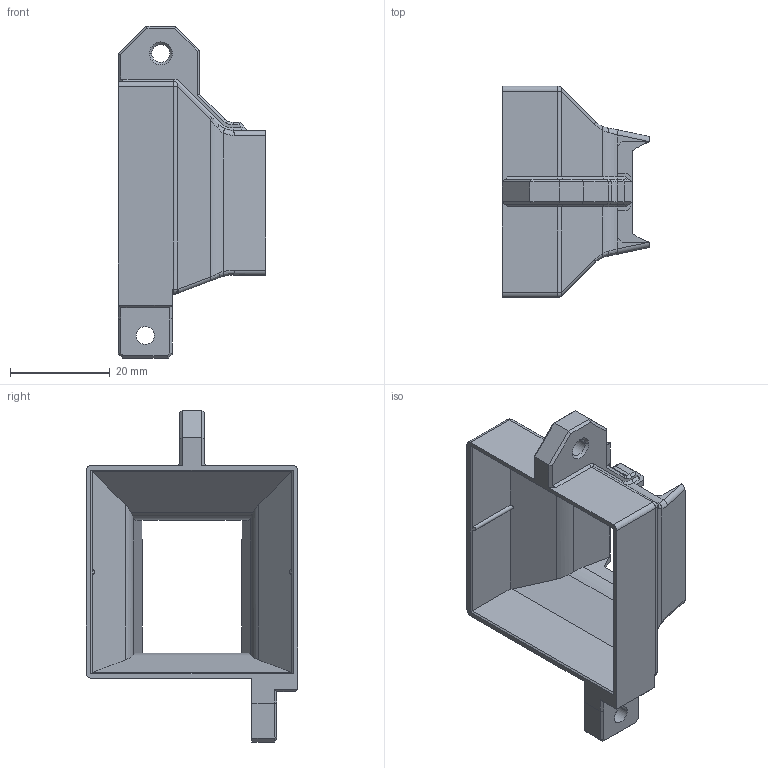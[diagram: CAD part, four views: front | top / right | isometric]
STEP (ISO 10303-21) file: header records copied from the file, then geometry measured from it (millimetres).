
FILE_DESCRIPTION(('CATIA V5 STEP Exchange'),'2;1');
FILE_NAME('D:\_이전 노트북\Cremaker모델링\Cremaker_profile-Metal(5차)-(Final)\Fan-mount.stp','2020-10-23T05:46:06+00:00',('none'),('none'),'CATIA Version 5 Release 20 GA (IN-10)','CATIA V5 STEP AP203','none');
FILE_SCHEMA(('CONFIG_CONTROL_DESIGN'));
Length unit declared in the file: millimetre
Products named in the file (1): fan-mount
Bounding box: 29.5 x 42.4 x 66.53 mm (x, y, z)
Volume: 6613.5 mm3; surface area: 9639.3 mm2
Topology: 1 solids, 1 shells, 181 faces, 460 edges, 279 vertices
Faces by surface type: plane 113, cylinder 36, bspline 16, cone 8, sphere 6, extrusion 2
Entity records: 5899 total; most frequent: CARTESIAN_POINT 1937, ORIENTED_EDGE 892, DIRECTION 626, EDGE_CURVE 446, VECTOR 291, LINE 289, VERTEX_POINT 267, AXIS2_PLACEMENT_3D 195
